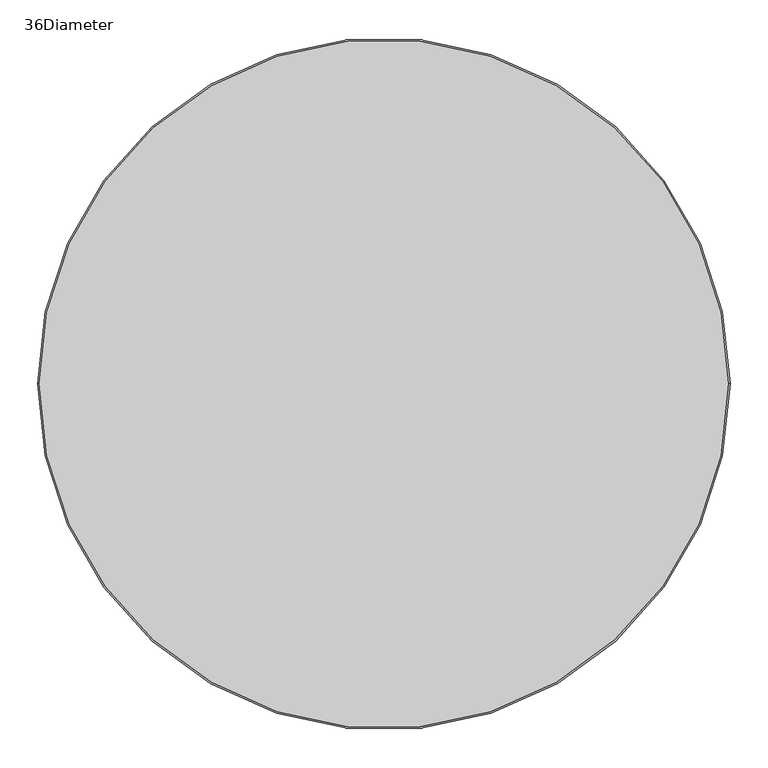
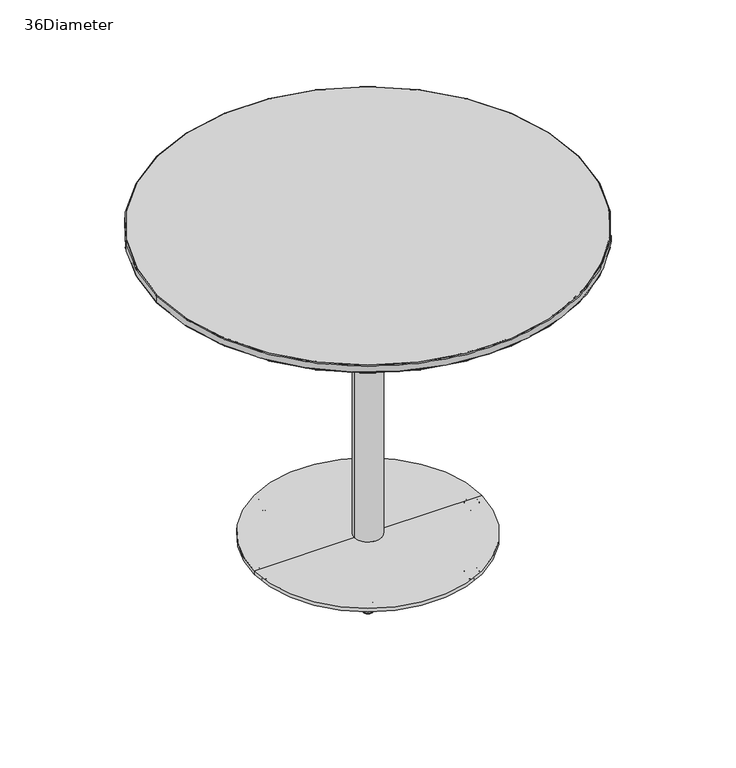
"""IFC4 building model written with IfcOpenShell, lengths in millimetres: furniture geometry, Coalesse_AM_Table_Conference_Montara650_WorkHeight_Round : 36Diameter."""

from ifc_helpers import new_model, si_unit, point, frame, origin, origin_with_axes, origin_2d, place, context, project, spatial, polyline, circle_curve, ellipse_curve, trimmed, segment, composite_curve, outline, extrude, source, transform, mapped, element, save
from ifc_brep_helpers import plane_surface, cylinder_surface, revolved_surface, advanced_brep


def furniture_36diameter_d4917d93(model_context):
    return source(origin(), model_context, "Body", "SolidModel", [
        advanced_brep(
        [(-112.4946772, 194.8464965, 0.0), (-117.6867095, 203.8393602, 0.0), (-107.302645, 185.8536329, 0.0), (-118.0731448, 204.5086859, 0.5718943), (-106.9162096, 185.1843072, 0.5718943), (-119.6988534, 207.3244957, 11.2068005), (-105.290501, 182.3684973, 11.2068005), (-119.4053894, 206.8162011, 11.9999882), (-105.5839651, 182.8767919, 11.9999882), (-112.4946772, 194.8464965, 11.9999882)],
        [
            (0, 1),
            (1, 2, circle_curve(frame((-112.4946772, 194.8464965, 0.0), z_axis=(0.0, 0.0, -1.0), x_axis=(-0.5000000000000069, 0.8660254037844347, 0.0)), 10.3840645)),
            (2, 0),
            (2, 1, circle_curve(frame((-112.4946772, 194.8464965, 0.0), z_axis=(0.0, 0.0, -1.0), x_axis=(-0.5000000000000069, 0.8660254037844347, 0.0)), 10.3840645)),
            (1, 3, circle_curve(frame((-117.6867095, 203.8393602, 0.8081846), z_axis=(0.8660254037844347, 0.5000000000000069, 0.0), x_axis=(-0.5000000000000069, 0.8660254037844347, 0.0)), 0.8081846)),
            (3, 4, circle_curve(frame((-112.4946772, 194.8464965, 0.5718943), z_axis=(0.0, 0.0, -1.0), x_axis=(-0.5000000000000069, 0.8660254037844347, 0.0)), 11.1569353)),
            (4, 2, circle_curve(frame((-107.302645, 185.8536329, 0.8081846), z_axis=(0.866025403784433, 0.5000000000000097, 0.0), x_axis=(0.5000000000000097, -0.866025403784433, 0.0)), 0.8081846)),
            (4, 3, circle_curve(frame((-112.4946772, 194.8464965, 0.5718943), z_axis=(0.0, 0.0, -1.0), x_axis=(-0.5000000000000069, 0.8660254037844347, 0.0)), 11.1569353)),
            (3, 5),
            (5, 6, circle_curve(frame((-112.4946772, 194.8464965, 11.2068005), z_axis=(0.0, 0.0, -1.0), x_axis=(-0.5000000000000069, 0.8660254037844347, 0.0)), 14.4083524)),
            (6, 4),
            (6, 5, circle_curve(frame((-112.4946772, 194.8464965, 11.2068005), z_axis=(0.0, 0.0, -1.0), x_axis=(-0.5000000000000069, 0.8660254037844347, 0.0)), 14.4083524)),
            (5, 7, circle_curve(frame((-119.4053894, 206.8162011, 11.3862424), z_axis=(0.8660254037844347, 0.5000000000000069, 0.0), x_axis=(-0.5000000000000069, 0.8660254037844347, 0.0)), 0.6137458)),
            (7, 8, circle_curve(frame((-112.4946772, 194.8464965, 11.9999882), z_axis=(0.0, 0.0, -1.0), x_axis=(-0.5000000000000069, 0.8660254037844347, 0.0)), 13.8214243)),
            (8, 6, circle_curve(frame((-105.5839651, 182.8767919, 11.3862424), z_axis=(0.866025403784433, 0.5000000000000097, 0.0), x_axis=(0.5000000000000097, -0.866025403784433, 0.0)), 0.6137458)),
            (8, 7, circle_curve(frame((-112.4946772, 194.8464965, 11.9999882), z_axis=(0.0, 0.0, -1.0), x_axis=(-0.5000000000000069, 0.8660254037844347, 0.0)), 13.8214243)),
            (7, 9),
            (9, 8),
        ],
        [
            plane_surface(frame((-112.4946772, 194.8464965, 0.0), z_axis=(0.0, 0.0, -1.0), x_axis=(-0.5000000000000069, 0.8660254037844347, 0.0))),
            revolved_surface(trimmed(ellipse_curve(frame((-117.6867095, 203.8393602, 0.8081846), z_axis=(-0.8660254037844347, -0.5000000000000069, 0.0), x_axis=(-0.5000000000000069, 0.8660254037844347, 0.0)), 0.8081846, 0.8081846), [point((-118.0731448, 204.5086859, 0.5718943))], [point((-117.6867095, 203.8393602, 0.0))], True, "CARTESIAN"), (-112.4946772, 194.8464965, 12.2086845), (0.0, 0.0, -1.0)),
            revolved_surface(polyline([(-119.6988534, 207.3244957, 11.2068005), (-118.0731448, 204.5086859, 0.5718943)]), (-112.4946772, 194.8464965, 12.2086845), (0.0, 0.0, -1.0)),
            revolved_surface(trimmed(ellipse_curve(frame((-119.4053894, 206.8162011, 11.3862424), z_axis=(-0.8660254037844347, -0.5000000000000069, 0.0), x_axis=(-0.5000000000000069, 0.8660254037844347, 0.0)), 0.6137458, 0.6137458), [point((-119.4053894, 206.8162011, 11.9999882))], [point((-119.6988534, 207.3244957, 11.2068005))], True, "CARTESIAN"), (-112.4946772, 194.8464965, 12.2086845), (0.0, 0.0, -1.0)),
            plane_surface(frame((-112.4946772, 194.8464965, 11.9999882), z_axis=(0.0, 0.0, 1.0), x_axis=(-0.5000000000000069, 0.8660254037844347, 0.0))),
        ],
        [
            (0, [[1, 2, 3]]),
            (0, [[-3, 4, -1]]),
            (1, [[-2, 5, 6, 7]]),
            (1, [[-4, -7, 8, -5]]),
            (2, [[-6, 9, 10, 11]]),
            (2, [[-8, -11, 12, -9]]),
            (3, [[-10, 13, 14, 15]]),
            (3, [[-12, -15, 16, -13]]),
            (4, [[-14, 17, 18]]),
            (4, [[-16, -18, -17]]),
        ],
    ),
        advanced_brep(
        [(107.302645, -185.8536329, 0.0), (117.6867095, -203.8393602, 0.0), (112.4946772, -194.8464965, 0.0), (106.9162096, -185.1843072, 0.5718943), (118.0731448, -204.5086859, 0.5718943), (105.290501, -182.3684973, 11.2068005), (119.6988534, -207.3244957, 11.2068005), (105.5839651, -182.8767919, 11.9999882), (119.4053894, -206.8162011, 11.9999882), (112.4946772, -194.8464965, 11.9999882)],
        [
            (0, 1, circle_curve(frame((112.4946772, -194.8464965, 0.0), z_axis=(0.0, 0.0, -1.0), x_axis=(0.5000000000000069, -0.8660254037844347, 0.0)), 10.3840645)),
            (1, 2),
            (2, 0),
            (1, 0, circle_curve(frame((112.4946772, -194.8464965, 0.0), z_axis=(0.0, 0.0, -1.0), x_axis=(0.5000000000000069, -0.8660254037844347, 0.0)), 10.3840645)),
            (3, 4, circle_curve(frame((112.4946772, -194.8464965, 0.5718943), z_axis=(0.0, 0.0, -1.0), x_axis=(0.5000000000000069, -0.8660254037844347, 0.0)), 11.1569353)),
            (4, 1, circle_curve(frame((117.6867095, -203.8393602, 0.8081846), z_axis=(0.8660254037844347, 0.5000000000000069, 0.0), x_axis=(0.5000000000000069, -0.8660254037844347, 0.0)), 0.8081846)),
            (0, 3, circle_curve(frame((107.302645, -185.8536329, 0.8081846), z_axis=(0.8660254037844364, 0.5000000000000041, 0.0), x_axis=(-0.5000000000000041, 0.8660254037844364, 0.0)), 0.8081846)),
            (4, 3, circle_curve(frame((112.4946772, -194.8464965, 0.5718943), z_axis=(0.0, 0.0, -1.0), x_axis=(0.5000000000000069, -0.8660254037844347, 0.0)), 11.1569353)),
            (5, 6, circle_curve(frame((112.4946772, -194.8464965, 11.2068005), z_axis=(0.0, 0.0, -1.0), x_axis=(0.5000000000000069, -0.8660254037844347, 0.0)), 14.4083524)),
            (6, 4),
            (3, 5),
            (6, 5, circle_curve(frame((112.4946772, -194.8464965, 11.2068005), z_axis=(0.0, 0.0, -1.0), x_axis=(0.5000000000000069, -0.8660254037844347, 0.0)), 14.4083524)),
            (7, 8, circle_curve(frame((112.4946772, -194.8464965, 11.9999882), z_axis=(0.0, 0.0, -1.0), x_axis=(0.5000000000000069, -0.8660254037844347, 0.0)), 13.8214243)),
            (8, 6, circle_curve(frame((119.4053894, -206.8162011, 11.3862424), z_axis=(0.8660254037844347, 0.5000000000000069, 0.0), x_axis=(0.5000000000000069, -0.8660254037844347, 0.0)), 0.6137458)),
            (5, 7, circle_curve(frame((105.5839651, -182.8767919, 11.3862424), z_axis=(0.8660254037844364, 0.5000000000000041, 0.0), x_axis=(-0.5000000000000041, 0.8660254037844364, 0.0)), 0.6137458)),
            (8, 7, circle_curve(frame((112.4946772, -194.8464965, 11.9999882), z_axis=(0.0, 0.0, -1.0), x_axis=(0.5000000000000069, -0.8660254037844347, 0.0)), 13.8214243)),
            (9, 8),
            (7, 9),
        ],
        [
            plane_surface(frame((112.4946772, -194.8464965, 0.0), z_axis=(0.0, 0.0, -1.0), x_axis=(0.5000000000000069, -0.8660254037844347, 0.0))),
            revolved_surface(trimmed(ellipse_curve(frame((117.6867095, -203.8393602, 0.8081846), z_axis=(-0.8660254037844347, -0.5000000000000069, 0.0), x_axis=(0.5000000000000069, -0.8660254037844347, 0.0)), 0.8081846, 0.8081846), [point((117.6867095, -203.8393602, 0.0))], [point((118.0731448, -204.5086859, 0.5718943))], True, "CARTESIAN"), (112.4946772, -194.8464965, 12.2086845), (0.0, 0.0, 1.0)),
            revolved_surface(polyline([(118.0731448, -204.5086859, 0.5718943), (119.6988534, -207.3244957, 11.2068005)]), (112.4946772, -194.8464965, 12.2086845), (0.0, 0.0, 1.0)),
            revolved_surface(trimmed(ellipse_curve(frame((119.4053894, -206.8162011, 11.3862424), z_axis=(-0.8660254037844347, -0.5000000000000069, 0.0), x_axis=(0.5000000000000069, -0.8660254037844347, 0.0)), 0.6137458, 0.6137458), [point((119.6988534, -207.3244957, 11.2068005))], [point((119.4053894, -206.8162011, 11.9999882))], True, "CARTESIAN"), (112.4946772, -194.8464965, 12.2086845), (0.0, 0.0, 1.0)),
            plane_surface(frame((112.4946772, -194.8464965, 11.9999882), z_axis=(0.0, 0.0, 1.0), x_axis=(0.5000000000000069, -0.8660254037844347, 0.0))),
        ],
        [
            (0, [[1, 2, 3]]),
            (0, [[4, -3, -2]]),
            (1, [[5, 6, -1, 7]]),
            (1, [[8, -7, -4, -6]]),
            (2, [[9, 10, -5, 11]]),
            (2, [[12, -11, -8, -10]]),
            (3, [[13, 14, -9, 15]]),
            (3, [[16, -15, -12, -14]]),
            (4, [[17, -13, 18]]),
            (4, [[-18, -16, -17]]),
        ],
    ),
        advanced_brep(
        [(107.302645, 185.8536329, 0.0), (117.6867095, 203.8393602, 0.0), (112.4946772, 194.8464965, 0.0), (106.9162096, 185.1843072, 0.5718943), (118.0731448, 204.5086859, 0.5718943), (105.290501, 182.3684973, 11.2068005), (119.6988534, 207.3244957, 11.2068005), (105.5839651, 182.8767919, 11.9999882), (119.4053894, 206.8162011, 11.9999882), (112.4946772, 194.8464965, 11.9999882)],
        [
            (0, 1, circle_curve(frame((112.4946772, 194.8464965, 0.0), z_axis=(0.0, 0.0, -1.0), x_axis=(0.5000000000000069, 0.8660254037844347, 0.0)), 10.3840645)),
            (1, 2),
            (2, 0),
            (1, 0, circle_curve(frame((112.4946772, 194.8464965, 0.0), z_axis=(0.0, 0.0, -1.0), x_axis=(0.5000000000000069, 0.8660254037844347, 0.0)), 10.3840645)),
            (3, 4, circle_curve(frame((112.4946772, 194.8464965, 0.5718943), z_axis=(0.0, 0.0, -1.0), x_axis=(0.5000000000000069, 0.8660254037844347, 0.0)), 11.1569353)),
            (4, 1, circle_curve(frame((117.6867095, 203.8393602, 0.8081846), z_axis=(-0.8660254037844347, 0.5000000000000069, 0.0), x_axis=(0.5000000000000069, 0.8660254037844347, 0.0)), 0.8081846)),
            (0, 3, circle_curve(frame((107.302645, 185.8536329, 0.8081846), z_axis=(-0.866025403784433, 0.5000000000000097, 0.0), x_axis=(-0.5000000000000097, -0.866025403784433, 0.0)), 0.8081846)),
            (4, 3, circle_curve(frame((112.4946772, 194.8464965, 0.5718943), z_axis=(0.0, 0.0, -1.0), x_axis=(0.5000000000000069, 0.8660254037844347, 0.0)), 11.1569353)),
            (5, 6, circle_curve(frame((112.4946772, 194.8464965, 11.2068005), z_axis=(0.0, 0.0, -1.0), x_axis=(0.5000000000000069, 0.8660254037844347, 0.0)), 14.4083524)),
            (6, 4),
            (3, 5),
            (6, 5, circle_curve(frame((112.4946772, 194.8464965, 11.2068005), z_axis=(0.0, 0.0, -1.0), x_axis=(0.5000000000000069, 0.8660254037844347, 0.0)), 14.4083524)),
            (7, 8, circle_curve(frame((112.4946772, 194.8464965, 11.9999882), z_axis=(0.0, 0.0, -1.0), x_axis=(0.5000000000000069, 0.8660254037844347, 0.0)), 13.8214243)),
            (8, 6, circle_curve(frame((119.4053894, 206.8162011, 11.3862424), z_axis=(-0.8660254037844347, 0.5000000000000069, 0.0), x_axis=(0.5000000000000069, 0.8660254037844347, 0.0)), 0.6137458)),
            (5, 7, circle_curve(frame((105.5839651, 182.8767919, 11.3862424), z_axis=(-0.866025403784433, 0.5000000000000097, 0.0), x_axis=(-0.5000000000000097, -0.866025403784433, 0.0)), 0.6137458)),
            (8, 7, circle_curve(frame((112.4946772, 194.8464965, 11.9999882), z_axis=(0.0, 0.0, -1.0), x_axis=(0.5000000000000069, 0.8660254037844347, 0.0)), 13.8214243)),
            (9, 8),
            (7, 9),
        ],
        [
            plane_surface(frame((112.4946772, 194.8464965, 0.0), z_axis=(0.0, 0.0, -1.0), x_axis=(0.5000000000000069, 0.8660254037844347, 0.0))),
            revolved_surface(trimmed(ellipse_curve(frame((117.6867095, 203.8393602, 0.8081846), z_axis=(0.8660254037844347, -0.5000000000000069, 0.0), x_axis=(0.5000000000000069, 0.8660254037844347, 0.0)), 0.8081846, 0.8081846), [point((117.6867095, 203.8393602, 0.0))], [point((118.0731448, 204.5086859, 0.5718943))], True, "CARTESIAN"), (112.4946772, 194.8464965, 12.2086845), (0.0, 0.0, 1.0)),
            revolved_surface(polyline([(118.0731448, 204.5086859, 0.5718943), (119.6988534, 207.3244957, 11.2068005)]), (112.4946772, 194.8464965, 12.2086845), (0.0, 0.0, 1.0)),
            revolved_surface(trimmed(ellipse_curve(frame((119.4053894, 206.8162011, 11.3862424), z_axis=(0.8660254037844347, -0.5000000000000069, 0.0), x_axis=(0.5000000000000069, 0.8660254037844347, 0.0)), 0.6137458, 0.6137458), [point((119.6988534, 207.3244957, 11.2068005))], [point((119.4053894, 206.8162011, 11.9999882))], True, "CARTESIAN"), (112.4946772, 194.8464965, 12.2086845), (0.0, 0.0, 1.0)),
            plane_surface(frame((112.4946772, 194.8464965, 11.9999882), z_axis=(0.0, 0.0, 1.0), x_axis=(0.5000000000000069, 0.8660254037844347, 0.0))),
        ],
        [
            (0, [[1, 2, 3]]),
            (0, [[4, -3, -2]]),
            (1, [[5, 6, -1, 7]]),
            (1, [[8, -7, -4, -6]]),
            (2, [[9, 10, -5, 11]]),
            (2, [[12, -11, -8, -10]]),
            (3, [[13, 14, -9, 15]]),
            (3, [[16, -15, -12, -14]]),
            (4, [[17, -13, 18]]),
            (4, [[-18, -16, -17]]),
        ],
    ),
        advanced_brep(
        [(-112.4946772, -194.8464965, 0.0), (-117.6867095, -203.8393602, 0.0), (-107.302645, -185.8536329, 0.0), (-118.0731448, -204.5086859, 0.5718943), (-106.9162096, -185.1843072, 0.5718943), (-119.6988534, -207.3244957, 11.2068005), (-105.290501, -182.3684973, 11.2068005), (-119.4053894, -206.8162011, 11.9999882), (-105.5839651, -182.8767919, 11.9999882), (-112.4946772, -194.8464965, 11.9999882)],
        [
            (0, 1),
            (1, 2, circle_curve(frame((-112.4946772, -194.8464965, 0.0), z_axis=(0.0, 0.0, -1.0), x_axis=(-0.5000000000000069, -0.8660254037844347, 0.0)), 10.3840645)),
            (2, 0),
            (2, 1, circle_curve(frame((-112.4946772, -194.8464965, 0.0), z_axis=(0.0, 0.0, -1.0), x_axis=(-0.5000000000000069, -0.8660254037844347, 0.0)), 10.3840645)),
            (1, 3, circle_curve(frame((-117.6867095, -203.8393602, 0.8081846), z_axis=(-0.8660254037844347, 0.5000000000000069, 0.0), x_axis=(-0.5000000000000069, -0.8660254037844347, 0.0)), 0.8081846)),
            (3, 4, circle_curve(frame((-112.4946772, -194.8464965, 0.5718943), z_axis=(0.0, 0.0, -1.0), x_axis=(-0.5000000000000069, -0.8660254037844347, 0.0)), 11.1569353)),
            (4, 2, circle_curve(frame((-107.302645, -185.8536329, 0.8081846), z_axis=(-0.8660254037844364, 0.5000000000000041, 0.0), x_axis=(0.5000000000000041, 0.8660254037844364, 0.0)), 0.8081846)),
            (4, 3, circle_curve(frame((-112.4946772, -194.8464965, 0.5718943), z_axis=(0.0, 0.0, -1.0), x_axis=(-0.5000000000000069, -0.8660254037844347, 0.0)), 11.1569353)),
            (3, 5),
            (5, 6, circle_curve(frame((-112.4946772, -194.8464965, 11.2068005), z_axis=(0.0, 0.0, -1.0), x_axis=(-0.5000000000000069, -0.8660254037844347, 0.0)), 14.4083524)),
            (6, 4),
            (6, 5, circle_curve(frame((-112.4946772, -194.8464965, 11.2068005), z_axis=(0.0, 0.0, -1.0), x_axis=(-0.5000000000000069, -0.8660254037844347, 0.0)), 14.4083524)),
            (5, 7, circle_curve(frame((-119.4053894, -206.8162011, 11.3862424), z_axis=(-0.8660254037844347, 0.5000000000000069, 0.0), x_axis=(-0.5000000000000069, -0.8660254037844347, 0.0)), 0.6137458)),
            (7, 8, circle_curve(frame((-112.4946772, -194.8464965, 11.9999882), z_axis=(0.0, 0.0, -1.0), x_axis=(-0.5000000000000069, -0.8660254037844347, 0.0)), 13.8214243)),
            (8, 6, circle_curve(frame((-105.5839651, -182.8767919, 11.3862424), z_axis=(-0.8660254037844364, 0.5000000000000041, 0.0), x_axis=(0.5000000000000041, 0.8660254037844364, 0.0)), 0.6137458)),
            (8, 7, circle_curve(frame((-112.4946772, -194.8464965, 11.9999882), z_axis=(0.0, 0.0, -1.0), x_axis=(-0.5000000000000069, -0.8660254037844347, 0.0)), 13.8214243)),
            (7, 9),
            (9, 8),
        ],
        [
            plane_surface(frame((-112.4946772, -194.8464965, 0.0), z_axis=(0.0, 0.0, -1.0), x_axis=(-0.5000000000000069, -0.8660254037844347, 0.0))),
            revolved_surface(trimmed(ellipse_curve(frame((-117.6867095, -203.8393602, 0.8081846), z_axis=(0.8660254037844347, -0.5000000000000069, 0.0), x_axis=(-0.5000000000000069, -0.8660254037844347, 0.0)), 0.8081846, 0.8081846), [point((-118.0731448, -204.5086859, 0.5718943))], [point((-117.6867095, -203.8393602, 0.0))], True, "CARTESIAN"), (-112.4946772, -194.8464965, 12.2086845), (0.0, 0.0, -1.0)),
            revolved_surface(polyline([(-119.6988534, -207.3244957, 11.2068005), (-118.0731448, -204.5086859, 0.5718943)]), (-112.4946772, -194.8464965, 12.2086845), (0.0, 0.0, -1.0)),
            revolved_surface(trimmed(ellipse_curve(frame((-119.4053894, -206.8162011, 11.3862424), z_axis=(0.8660254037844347, -0.5000000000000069, 0.0), x_axis=(-0.5000000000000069, -0.8660254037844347, 0.0)), 0.6137458, 0.6137458), [point((-119.4053894, -206.8162011, 11.9999882))], [point((-119.6988534, -207.3244957, 11.2068005))], True, "CARTESIAN"), (-112.4946772, -194.8464965, 12.2086845), (0.0, 0.0, -1.0)),
            plane_surface(frame((-112.4946772, -194.8464965, 11.9999882), z_axis=(0.0, 0.0, 1.0), x_axis=(-0.5000000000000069, -0.8660254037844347, 0.0))),
        ],
        [
            (0, [[1, 2, 3]]),
            (0, [[-3, 4, -1]]),
            (1, [[-2, 5, 6, 7]]),
            (1, [[-4, -7, 8, -5]]),
            (2, [[-6, 9, 10, 11]]),
            (2, [[-8, -11, 12, -9]]),
            (3, [[-10, 13, 14, 15]]),
            (3, [[-12, -15, 16, -13]]),
            (4, [[-14, 17, 18]]),
            (4, [[-16, -18, -17]]),
        ],
    ),
        advanced_brep(
        [(214.6052899, 0.0, 0.0), (235.3734189, 0.0, 0.0), (224.9893544, 0.0, 0.0), (213.8324192, 0.0, 0.5718943), (236.1462897, 0.0, 0.5718943), (210.5810021, 0.0, 11.2068005), (239.3977068, 0.0, 11.2068005), (211.1679301, 0.0, 11.9999882), (238.8107788, 0.0, 11.9999882), (224.9893544, 0.0, 11.9999882)],
        [
            (0, 1, circle_curve(frame((224.9893544, 0.0, 0.0), z_axis=(0.0, 0.0, -1.0), x_axis=(1.0, 0.0, 0.0)), 10.3840645)),
            (1, 2),
            (2, 0),
            (1, 0, circle_curve(frame((224.9893544, 0.0, 0.0), z_axis=(0.0, 0.0, -1.0), x_axis=(1.0, 0.0, 0.0)), 10.3840645)),
            (3, 4, circle_curve(frame((224.9893544, 0.0, 0.5718943), z_axis=(0.0, 0.0, -1.0), x_axis=(1.0, 0.0, 0.0)), 11.1569353)),
            (4, 1, circle_curve(frame((235.3734189, 0.0, 0.8081846), z_axis=(0.0, 1.0, 0.0), x_axis=(1.0, 0.0, 0.0)), 0.8081846)),
            (0, 3, circle_curve(frame((214.6052899, 0.0, 0.8081846), z_axis=(0.0, 1.0, 0.0), x_axis=(-1.0, 0.0, 0.0)), 0.8081846)),
            (4, 3, circle_curve(frame((224.9893544, 0.0, 0.5718943), z_axis=(0.0, 0.0, -1.0), x_axis=(1.0, 0.0, 0.0)), 11.1569353)),
            (5, 6, circle_curve(frame((224.9893544, 0.0, 11.2068005), z_axis=(0.0, 0.0, -1.0), x_axis=(1.0, 0.0, 0.0)), 14.4083524)),
            (6, 4),
            (3, 5),
            (6, 5, circle_curve(frame((224.9893544, 0.0, 11.2068005), z_axis=(0.0, 0.0, -1.0), x_axis=(1.0, 0.0, 0.0)), 14.4083524)),
            (7, 8, circle_curve(frame((224.9893544, 0.0, 11.9999882), z_axis=(0.0, 0.0, -1.0), x_axis=(1.0, 0.0, 0.0)), 13.8214243)),
            (8, 6, circle_curve(frame((238.8107788, 0.0, 11.3862424), z_axis=(0.0, 1.0, 0.0), x_axis=(1.0, 0.0, 0.0)), 0.6137458)),
            (5, 7, circle_curve(frame((211.1679301, 0.0, 11.3862424), z_axis=(0.0, 1.0, 0.0), x_axis=(-1.0, 0.0, 0.0)), 0.6137458)),
            (8, 7, circle_curve(frame((224.9893544, 0.0, 11.9999882), z_axis=(0.0, 0.0, -1.0), x_axis=(1.0, 0.0, 0.0)), 13.8214243)),
            (9, 8),
            (7, 9),
        ],
        [
            plane_surface(frame((224.9893544, 0.0, 0.0), z_axis=(0.0, 0.0, -1.0), x_axis=(1.0, 0.0, 0.0))),
            revolved_surface(trimmed(ellipse_curve(frame((235.3734189, 0.0, 0.8081846), z_axis=(0.0, -1.0, 0.0), x_axis=(1.0, 0.0, 0.0)), 0.8081846, 0.8081846), [point((235.3734189, 0.0, 0.0))], [point((236.1462897, 0.0, 0.5718943))], True, "CARTESIAN"), (224.9893544, 0.0, 12.2086845), (0.0, 0.0, 1.0)),
            revolved_surface(polyline([(236.1462897, 0.0, 0.5718943), (239.3977068, 0.0, 11.2068005)]), (224.9893544, 0.0, 12.2086845), (0.0, 0.0, 1.0)),
            revolved_surface(trimmed(ellipse_curve(frame((238.8107788, 0.0, 11.3862424), z_axis=(0.0, -1.0, 0.0), x_axis=(1.0, 0.0, 0.0)), 0.6137458, 0.6137458), [point((239.3977068, 0.0, 11.2068005))], [point((238.8107788, 0.0, 11.9999882))], True, "CARTESIAN"), (224.9893544, 0.0, 12.2086845), (0.0, 0.0, 1.0)),
            plane_surface(frame((224.9893544, 0.0, 11.9999882), z_axis=(0.0, 0.0, 1.0), x_axis=(1.0, 0.0, 0.0))),
        ],
        [
            (0, [[1, 2, 3]]),
            (0, [[4, -3, -2]]),
            (1, [[5, 6, -1, 7]]),
            (1, [[8, -7, -4, -6]]),
            (2, [[9, 10, -5, 11]]),
            (2, [[12, -11, -8, -10]]),
            (3, [[13, 14, -9, 15]]),
            (3, [[16, -15, -12, -14]]),
            (4, [[17, -13, 18]]),
            (4, [[-18, -16, -17]]),
        ],
    ),
        advanced_brep(
        [(-391.668, 0.0, 693.930027), (391.668, 0.0, 693.930027), (-455.168, 0.0, 706.195891), (455.168, 0.0, 706.195891)],
        [
            (0, 1, circle_curve(frame((0.0, 0.0, 693.930027), z_axis=(0.0, 0.0, -1.0), x_axis=(-1.0, 0.0, 0.0)), 391.668)),
            (1, 0, circle_curve(frame((0.0, 0.0, 693.930027), z_axis=(0.0, 0.0, -1.0), x_axis=(1.0, 0.0, 0.0)), 391.668)),
            (2, 3, circle_curve(frame((0.0, 0.0, 706.195891), z_axis=(0.0, 0.0, 1.0), x_axis=(1.0, 0.0, 0.0)), 455.168)),
            (3, 2, circle_curve(frame((0.0, 0.0, 706.195891), z_axis=(0.0, 0.0, 1.0), x_axis=(-1.0, 0.0, 0.0)), 455.168)),
            (2, 0),
            (1, 3),
        ],
        [
            plane_surface(frame((0.0, 0.0, 693.930027), z_axis=(0.0, 0.0, -1.0), x_axis=(0.0, -1.0, 0.0))),
            plane_surface(frame((0.0, 0.0, 706.195891), z_axis=(0.0, 0.0, 1.0), x_axis=(0.0, -1.0, 0.0))),
            revolved_surface(polyline([(391.6679998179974, 0.0, 693.930027), (455.168, 0.0, 706.195891)]), (0.0, 0.0, 618.2741781), (0.0, 0.0, 1.0)),
            revolved_surface(polyline([(-391.6679998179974, 0.0, 693.930027), (-455.168, 0.0, 706.195891)]), (0.0, 0.0, 618.2741781), (0.0, 0.0, 1.0)),
        ],
        [
            (0, [[1, 2]]),
            (1, [[3, 4]]),
            (2, [[-3, 5, -2, 6]]),
            (3, [[-4, -6, -1, -5]]),
        ],
    ),
        extrude(outline(composite_curve([segment(trimmed(circle_curve(origin_2d(), 455.168), [point((-455.168, 0.0))], [point((455.168, 0.0))], False, "CARTESIAN"), True, "CONTINUOUS"), segment(trimmed(circle_curve(origin_2d(), 455.168), [point((455.168, 0.0))], [point((-455.168, 0.0))], False, "CARTESIAN"), True, "CONTINUOUS")], self_intersect=False)), frame((0.0, 0.0, 706.195891), z_axis=(0.0, 0.0, 1.0), x_axis=(1.0, 0.0, 0.0)), (0.0, 0.0, 1.0), 17.704109),
        advanced_brep(
        [(-224.9893544, 0.0, 0.0), (-235.3734189, 0.0, 0.0), (-214.6052899, 0.0, 0.0), (-236.1462897, 0.0, 0.5718943), (-213.8324192, 0.0, 0.5718943), (-239.3977068, 0.0, 11.2068005), (-210.5810021, 0.0, 11.2068005), (-238.8107788, 0.0, 11.9999882), (-211.1679301, 0.0, 11.9999882), (-224.9893544, 0.0, 11.9999882)],
        [
            (0, 1),
            (1, 2, circle_curve(frame((-224.9893544, 0.0, 0.0), z_axis=(0.0, 0.0, -1.0), x_axis=(-1.0, 0.0, 0.0)), 10.3840645)),
            (2, 0),
            (2, 1, circle_curve(frame((-224.9893544, 0.0, 0.0), z_axis=(0.0, 0.0, -1.0), x_axis=(-1.0, 0.0, 0.0)), 10.3840645)),
            (1, 3, circle_curve(frame((-235.3734189, 0.0, 0.8081846), z_axis=(0.0, 1.0, 0.0), x_axis=(-1.0, 0.0, 0.0)), 0.8081846)),
            (3, 4, circle_curve(frame((-224.9893544, 0.0, 0.5718943), z_axis=(0.0, 0.0, -1.0), x_axis=(-1.0, 0.0, 0.0)), 11.1569353)),
            (4, 2, circle_curve(frame((-214.6052899, 0.0, 0.8081846), z_axis=(0.0, 1.0, 0.0), x_axis=(1.0, 0.0, 0.0)), 0.8081846)),
            (4, 3, circle_curve(frame((-224.9893544, 0.0, 0.5718943), z_axis=(0.0, 0.0, -1.0), x_axis=(-1.0, 0.0, 0.0)), 11.1569353)),
            (3, 5),
            (5, 6, circle_curve(frame((-224.9893544, 0.0, 11.2068005), z_axis=(0.0, 0.0, -1.0), x_axis=(-1.0, 0.0, 0.0)), 14.4083524)),
            (6, 4),
            (6, 5, circle_curve(frame((-224.9893544, 0.0, 11.2068005), z_axis=(0.0, 0.0, -1.0), x_axis=(-1.0, 0.0, 0.0)), 14.4083524)),
            (5, 7, circle_curve(frame((-238.8107788, 0.0, 11.3862424), z_axis=(0.0, 1.0, 0.0), x_axis=(-1.0, 0.0, 0.0)), 0.6137458)),
            (7, 8, circle_curve(frame((-224.9893544, 0.0, 11.9999882), z_axis=(0.0, 0.0, -1.0), x_axis=(-1.0, 0.0, 0.0)), 13.8214243)),
            (8, 6, circle_curve(frame((-211.1679301, 0.0, 11.3862424), z_axis=(0.0, 1.0, 0.0), x_axis=(1.0, 0.0, 0.0)), 0.6137458)),
            (8, 7, circle_curve(frame((-224.9893544, 0.0, 11.9999882), z_axis=(0.0, 0.0, -1.0), x_axis=(-1.0, 0.0, 0.0)), 13.8214243)),
            (7, 9),
            (9, 8),
        ],
        [
            plane_surface(frame((-224.9893544, 0.0, 0.0), z_axis=(0.0, 0.0, -1.0), x_axis=(-1.0, 0.0, 0.0))),
            revolved_surface(trimmed(ellipse_curve(frame((-235.3734189, 0.0, 0.8081846), z_axis=(0.0, -1.0, 0.0), x_axis=(-1.0, 0.0, 0.0)), 0.8081846, 0.8081846), [point((-236.1462897, 0.0, 0.5718943))], [point((-235.3734189, 0.0, 0.0))], True, "CARTESIAN"), (-224.9893544, 0.0, 12.2086845), (0.0, 0.0, -1.0)),
            revolved_surface(polyline([(-239.3977068, 0.0, 11.2068005), (-236.1462897, 0.0, 0.5718943)]), (-224.9893544, 0.0, 12.2086845), (0.0, 0.0, -1.0)),
            revolved_surface(trimmed(ellipse_curve(frame((-238.8107788, 0.0, 11.3862424), z_axis=(0.0, -1.0, 0.0), x_axis=(-1.0, 0.0, 0.0)), 0.6137458, 0.6137458), [point((-238.8107788, 0.0, 11.9999882))], [point((-239.3977068, 0.0, 11.2068005))], True, "CARTESIAN"), (-224.9893544, 0.0, 12.2086845), (0.0, 0.0, -1.0)),
            plane_surface(frame((-224.9893544, 0.0, 11.9999882), z_axis=(0.0, 0.0, 1.0), x_axis=(-1.0, 0.0, 0.0))),
        ],
        [
            (0, [[1, 2, 3]]),
            (0, [[-3, 4, -1]]),
            (1, [[-2, 5, 6, 7]]),
            (1, [[-4, -7, 8, -5]]),
            (2, [[-6, 9, 10, 11]]),
            (2, [[-8, -11, 12, -9]]),
            (3, [[-10, 13, 14, 15]]),
            (3, [[-12, -15, 16, -13]]),
            (4, [[-14, 17, 18]]),
            (4, [[-16, -18, -17]]),
        ],
    ),
        advanced_brep(
        [(457.2438665, 0.0, 708.1278467), (-457.2438665, 0.0, 708.1278467), (-455.168, 0.0, 706.195891), (455.168, 0.0, 706.195891), (457.2438665, 0.0, 721.8999283), (-457.2438665, 0.0, 721.8999283), (455.168, 0.0, 723.9), (-455.168, 0.0, 723.9)],
        [
            (0, 1, circle_curve(frame((0.0, 0.0, 708.1278467), z_axis=(0.0, 0.0, -1.0), x_axis=(-1.0, 0.0, 0.0)), 457.2438665)),
            (1, 2, circle_curve(frame((-455.3069224, 0.0, 708.1278467), z_axis=(0.0, -1.0, 0.0), x_axis=(1.0, 0.0, 0.0)), 1.9369441)),
            (2, 3, circle_curve(frame((0.0, 0.0, 706.195891), z_axis=(0.0, 0.0, 1.0), x_axis=(-1.0, 0.0, 0.0)), 455.168)),
            (3, 0, circle_curve(frame((455.3069224, 0.0, 708.1278467), z_axis=(0.0, -1.0, 0.0), x_axis=(-1.0, 0.0, 0.0)), 1.9369441)),
            (4, 5, circle_curve(frame((0.0, 0.0, 721.8999283), z_axis=(0.0, 0.0, -1.0), x_axis=(-1.0, 0.0, 0.0)), 457.2438665)),
            (5, 1),
            (0, 4),
            (6, 7, circle_curve(frame((0.0, 0.0, 723.9), z_axis=(0.0, 0.0, -1.0), x_axis=(-1.0, 0.0, 0.0)), 455.168)),
            (7, 5, circle_curve(frame((-455.2424111, 0.0, 721.8999283), z_axis=(0.0, -1.0, 0.0), x_axis=(1.0, 0.0, 0.0)), 2.0014554)),
            (4, 6, circle_curve(frame((455.2424111, 0.0, 721.8999283), z_axis=(0.0, -1.0, 0.0), x_axis=(-1.0, 0.0, 0.0)), 2.0014554)),
            (2, 7),
            (6, 3),
            (1, 0, circle_curve(frame((0.0, 0.0, 708.1278467), z_axis=(0.0, 0.0, -1.0), x_axis=(1.0, 0.0, 0.0)), 457.2438665)),
            (3, 2, circle_curve(frame((0.0, 0.0, 706.195891), z_axis=(0.0, 0.0, 1.0), x_axis=(1.0, 0.0, 0.0)), 455.168)),
            (5, 4, circle_curve(frame((0.0, 0.0, 721.8999283), z_axis=(0.0, 0.0, -1.0), x_axis=(1.0, 0.0, 0.0)), 457.2438665)),
            (7, 6, circle_curve(frame((0.0, 0.0, 723.9), z_axis=(0.0, 0.0, -1.0), x_axis=(1.0, 0.0, 0.0)), 455.168)),
        ],
        [
            revolved_surface(trimmed(ellipse_curve(frame((-455.3069224, 0.0, 708.1278467), z_axis=(0.0, 1.0, 0.0), x_axis=(1.0, 0.0, 0.0)), 1.9369441, 1.9369441), [point((-455.168, 0.0, 706.195891))], [point((-457.2438665, 0.0, 708.1278467))], True, "CARTESIAN"), (0.0, 0.0, 0.0), (0.0, 0.0, 1.0)),
            cylinder_surface(frame((0.0, 0.0, 0.0), z_axis=(0.0, 0.0, 1.0), x_axis=(-1.0, 0.0, 0.0)), 457.2438665),
            revolved_surface(trimmed(ellipse_curve(frame((-455.2424111, 0.0, 721.8999283), z_axis=(0.0, 1.0, 0.0), x_axis=(1.0, 0.0, 0.0)), 2.0014554, 2.0014554), [point((-457.2438665, 0.0, 721.8999283))], [point((-455.168, 0.0, 723.9))], True, "CARTESIAN"), (0.0, 0.0, 0.0), (0.0, 0.0, 1.0)),
            revolved_surface(polyline([(-455.168, 0.0, 723.9), (-455.168, 0.0, 706.195891)]), (0.0, 0.0, 0.0), (0.0, 0.0, 1.0)),
            revolved_surface(trimmed(ellipse_curve(frame((455.3069224, 0.0, 708.1278467), z_axis=(0.0, -1.0, 0.0), x_axis=(-1.0, 0.0, 0.0)), 1.9369441, 1.9369441), [point((455.168, 0.0, 706.195891))], [point((457.2438665, 0.0, 708.1278467))], True, "CARTESIAN"), (0.0, 0.0, 0.0), (0.0, 0.0, 1.0)),
            cylinder_surface(origin_with_axes(), 457.2438665),
            revolved_surface(trimmed(ellipse_curve(frame((455.2424111, 0.0, 721.8999283), z_axis=(0.0, -1.0, 0.0), x_axis=(-1.0, 0.0, 0.0)), 2.0014554, 2.0014554), [point((457.2438665, 0.0, 721.8999283))], [point((455.168, 0.0, 723.9))], True, "CARTESIAN"), (0.0, 0.0, 0.0), (0.0, 0.0, 1.0)),
            revolved_surface(polyline([(455.168, 0.0, 723.9), (455.168, 0.0, 706.195891)]), (0.0, 0.0, 0.0), (0.0, 0.0, 1.0)),
        ],
        [
            (0, [[1, 2, 3, 4]]),
            (1, [[5, 6, -1, 7]]),
            (2, [[8, 9, -5, 10]]),
            (3, [[-3, 11, -8, 12]]),
            (4, [[13, -4, 14, -2]]),
            (5, [[15, -7, -13, -6]]),
            (6, [[16, -10, -15, -9]]),
            (7, [[-14, -12, -16, -11]]),
        ],
    ),
        advanced_brep(
        [(131.6004101, 0.0, 690.755027), (-131.6004101, 0.0, 690.755027), (-176.1626132, 0.0, 690.755027), (176.1626132, 0.0, 690.755027), (121.0488662, 0.0, 689.6460151), (-121.0488662, 0.0, 689.6460151), (48.7461809, 0.0, 674.9837029), (-48.7461809, 0.0, 674.9837029), (37.412985, 0.0, 674.9837029), (-37.412985, 0.0, 674.9837029), (29.5495828, 0.0, 19.9999965), (-29.5495828, 0.0, 19.9999965), (-29.5495828, 0.0, 686.7852036), (29.5495828, 0.0, 686.7852036), (246.3799842, 0.0, 19.9999965), (-246.3799842, 0.0, 19.9999965), (246.3799842, 0.0, 11.9999882), (-246.3799842, 0.0, 11.9999882), (0.0, 0.0, 11.9999882), (176.1626132, 0.0, 693.930027), (-176.1626132, 0.0, 693.930027), (0.0, 0.0, 693.930027), (33.3511087, 0.0, 676.4383874), (-33.3511087, 0.0, 676.4383874), (31.712334, 0.0, 686.7852036), (-31.712334, 0.0, 686.7852036)],
        [
            (0, 1, circle_curve(frame((0.0, 0.0, 690.755027), z_axis=(0.0, 0.0, 1.0), x_axis=(-1.0, 0.0, 0.0)), 131.6004101)),
            (1, 2),
            (2, 3, circle_curve(frame((0.0, 0.0, 690.755027), z_axis=(0.0, 0.0, -1.0), x_axis=(-1.0, 0.0, 0.0)), 176.1626132)),
            (3, 0),
            (1, 0, circle_curve(frame((0.0, 0.0, 690.755027), z_axis=(0.0, 0.0, 1.0), x_axis=(-1.0, 0.0, 0.0)), 131.6004101)),
            (3, 2, circle_curve(frame((0.0, 0.0, 690.755027), z_axis=(0.0, 0.0, -1.0), x_axis=(-1.0, 0.0, 0.0)), 176.1626132)),
            (4, 5, circle_curve(frame((0.0, 0.0, 689.6460151), z_axis=(0.0, 0.0, 1.0), x_axis=(-1.0, 0.0, 0.0)), 121.0488662)),
            (5, 1),
            (0, 4),
            (5, 4, circle_curve(frame((0.0, 0.0, 689.6460151), z_axis=(0.0, 0.0, 1.0), x_axis=(-1.0, 0.0, 0.0)), 121.0488662)),
            (6, 7, circle_curve(frame((0.0, 0.0, 674.9837029), z_axis=(0.0, 0.0, 1.0), x_axis=(-1.0, 0.0, 0.0)), 48.7461809)),
            (7, 5),
            (4, 6),
            (7, 6, circle_curve(frame((0.0, 0.0, 674.9837029), z_axis=(0.0, 0.0, 1.0), x_axis=(-1.0, 0.0, 0.0)), 48.7461809)),
            (8, 9, circle_curve(frame((0.0, 0.0, 674.9837029), z_axis=(0.0, 0.0, 1.0), x_axis=(-1.0, 0.0, 0.0)), 37.412985)),
            (9, 7),
            (6, 8),
            (9, 8, circle_curve(frame((0.0, 0.0, 674.9837029), z_axis=(0.0, 0.0, 1.0), x_axis=(-1.0, 0.0, 0.0)), 37.412985)),
            (10, 11, circle_curve(frame((0.0, 0.0, 19.9999965), z_axis=(0.0, 0.0, 1.0), x_axis=(-1.0, 0.0, 0.0)), 29.5495828)),
            (11, 12),
            (12, 13, circle_curve(frame((0.0, 0.0, 686.7852036), z_axis=(0.0, 0.0, -1.0), x_axis=(-1.0, 0.0, 0.0)), 29.5495828)),
            (13, 10),
            (11, 10, circle_curve(frame((0.0, 0.0, 19.9999965), z_axis=(0.0, 0.0, 1.0), x_axis=(-1.0, 0.0, 0.0)), 29.5495828)),
            (13, 12, circle_curve(frame((0.0, 0.0, 686.7852036), z_axis=(0.0, 0.0, -1.0), x_axis=(-1.0, 0.0, 0.0)), 29.5495828)),
            (14, 15, circle_curve(frame((0.0, 0.0, 19.9999965), z_axis=(0.0, 0.0, 1.0), x_axis=(-1.0, 0.0, 0.0)), 246.3799842)),
            (15, 11),
            (10, 14),
            (15, 14, circle_curve(frame((0.0, 0.0, 19.9999965), z_axis=(0.0, 0.0, 1.0), x_axis=(-1.0, 0.0, 0.0)), 246.3799842)),
            (16, 17, circle_curve(frame((0.0, 0.0, 11.9999882), z_axis=(0.0, 0.0, 1.0), x_axis=(-1.0, 0.0, 0.0)), 246.3799842)),
            (17, 15),
            (14, 16),
            (17, 16, circle_curve(frame((0.0, 0.0, 11.9999882), z_axis=(0.0, 0.0, 1.0), x_axis=(-1.0, 0.0, 0.0)), 246.3799842)),
            (18, 17),
            (16, 18),
            (19, 20, circle_curve(frame((0.0, 0.0, 693.930027), z_axis=(0.0, 0.0, 1.0), x_axis=(-1.0, 0.0, 0.0)), 176.1626132)),
            (20, 21),
            (21, 19),
            (20, 19, circle_curve(frame((0.0, 0.0, 693.930027), z_axis=(0.0, 0.0, 1.0), x_axis=(-1.0, 0.0, 0.0)), 176.1626132)),
            (2, 20),
            (19, 3),
            (22, 23, circle_curve(frame((0.0, 0.0, 676.4383874), z_axis=(0.0, 0.0, 1.0), x_axis=(-1.0, 0.0, 0.0)), 33.3511087)),
            (23, 9),
            (8, 22),
            (23, 22, circle_curve(frame((0.0, 0.0, 676.4383874), z_axis=(0.0, 0.0, 1.0), x_axis=(-1.0, 0.0, 0.0)), 33.3511087)),
            (24, 25, circle_curve(frame((0.0, 0.0, 686.7852036), z_axis=(0.0, 0.0, 1.0), x_axis=(-1.0, 0.0, 0.0)), 31.712334)),
            (25, 23),
            (22, 24),
            (25, 24, circle_curve(frame((0.0, 0.0, 686.7852036), z_axis=(0.0, 0.0, 1.0), x_axis=(-1.0, 0.0, 0.0)), 31.712334)),
            (12, 25),
            (24, 13),
        ],
        [
            plane_surface(frame((0.0, 0.0, 690.755027), z_axis=(0.0, 0.0, -1.0), x_axis=(-1.0, 0.0, 0.0))),
            revolved_surface(polyline([(-131.6004101, 0.0, 690.755027), (-121.0488662, 0.0, 689.6460151)]), (0.0, 0.0, 439.0999965), (0.0, 0.0, -1.0)),
            revolved_surface(polyline([(-121.0488662, 0.0, 689.6460151), (-48.7461809, 0.0, 674.9837029)]), (0.0, 0.0, 439.0999965), (0.0, 0.0, -1.0)),
            plane_surface(frame((0.0, 0.0, 674.9837029), z_axis=(0.0, 0.0, -1.0), x_axis=(-1.0, 0.0, 0.0))),
            cylinder_surface(frame((0.0, 0.0, 439.0999965), z_axis=(0.0, 0.0, -1.0), x_axis=(-1.0, 0.0, 0.0)), 29.5495828),
            plane_surface(frame((0.0, 0.0, 19.9999965), z_axis=(0.0, 0.0, 1.0), x_axis=(-1.0, 0.0, 0.0))),
            cylinder_surface(frame((0.0, 0.0, 439.0999965), z_axis=(0.0, 0.0, -1.0), x_axis=(-1.0, 0.0, 0.0)), 246.3799842),
            plane_surface(frame((0.0, 0.0, 11.9999882), z_axis=(0.0, 0.0, -1.0), x_axis=(-1.0, 0.0, 0.0))),
            plane_surface(frame((0.0, 0.0, 693.930027), z_axis=(0.0, 0.0, 1.0), x_axis=(-1.0, 0.0, 0.0))),
            cylinder_surface(frame((0.0, 0.0, 439.0999965), z_axis=(0.0, 0.0, -1.0), x_axis=(-1.0, 0.0, 0.0)), 176.1626132),
            revolved_surface(polyline([(-37.412985, 0.0, 674.9837029), (-33.3511087, 0.0, 676.4383874)]), (0.0, 0.0, 439.0999965), (0.0, 0.0, -1.0)),
            revolved_surface(polyline([(-33.3511087, 0.0, 676.4383874), (-31.712334, 0.0, 686.7852036)]), (0.0, 0.0, 439.0999965), (0.0, 0.0, -1.0)),
            plane_surface(frame((0.0, 0.0, 686.7852036), z_axis=(0.0, 0.0, -1.0), x_axis=(-1.0, 0.0, 0.0))),
        ],
        [
            (0, [[1, 2, 3, 4]]),
            (0, [[5, -4, 6, -2]]),
            (1, [[7, 8, -1, 9]]),
            (1, [[10, -9, -5, -8]]),
            (2, [[11, 12, -7, 13]]),
            (2, [[14, -13, -10, -12]]),
            (3, [[15, 16, -11, 17]]),
            (3, [[18, -17, -14, -16]]),
            (4, [[19, 20, 21, 22]]),
            (4, [[23, -22, 24, -20]]),
            (5, [[25, 26, -19, 27]]),
            (5, [[28, -27, -23, -26]]),
            (6, [[29, 30, -25, 31]]),
            (6, [[32, -31, -28, -30]]),
            (7, [[33, -29, 34]]),
            (7, [[-34, -32, -33]]),
            (8, [[35, 36, 37]]),
            (8, [[38, -37, -36]]),
            (9, [[-3, 39, -35, 40]]),
            (9, [[-6, -40, -38, -39]]),
            (10, [[41, 42, -15, 43]]),
            (10, [[44, -43, -18, -42]]),
            (11, [[45, 46, -41, 47]]),
            (11, [[48, -47, -44, -46]]),
            (12, [[-21, 49, -45, 50]]),
            (12, [[-24, -50, -48, -49]]),
        ],
    ),
    ])


if __name__ == "__main__":
    model = new_model("IFC4")
    model_context = context("Model", 3, world=origin())
    ifc_project = project(units=[si_unit("LENGTHUNIT", "METRE", prefix="MILLI")], contexts=[model_context])
    site = spatial("IfcSite", under=ifc_project)
    building = spatial("IfcBuilding", under=site)
    placement = place(None, origin())
    furniture_36diameter_shape = furniture_36diameter_d4917d93(model_context)
    element("IfcFurniture", 1, ObjectType="Coalesse_AM_Table_Conference_Montara650_WorkHeight_Round : 36Diameter", at=placement, inside=building, context=model_context, shape_type="MappedRepresentation", body=[
        mapped(furniture_36diameter_shape, transform((0.0, 0.0, 0.0), x_axis=(1.0, 0.0, 0.0), y_axis=(0.0, 1.0, 0.0), z_axis=(0.0, 0.0, 1.0))),
    ])
    save(model, "model.ifc")
